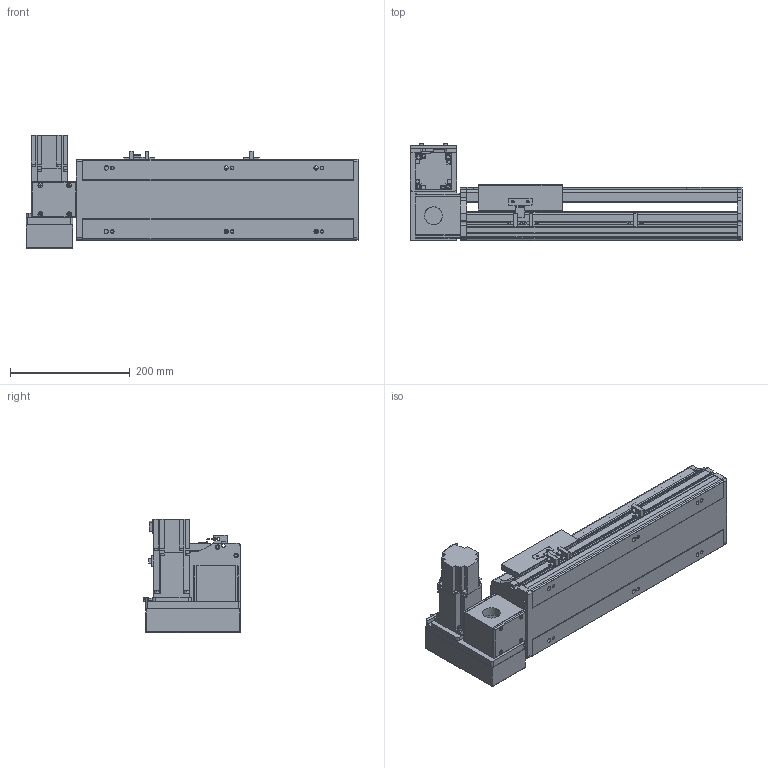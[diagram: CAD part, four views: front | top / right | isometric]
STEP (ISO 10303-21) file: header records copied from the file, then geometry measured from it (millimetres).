
FILE_DESCRIPTION( ( 'STEP AP214' ), '1' );
FILE_NAME( 'x:/temp/worker_6/temp/exporttempdir_5396_119_1QaUT/format_0/PBS140S-P40-S200-LU-T40-C1-N(0).stp', '2022-06-09T00:33:05', ( 'License CC BY-ND 4.0' ), ( 'CADENAS' ), ' ', 'PARTsolutions', ' ' );
FILE_SCHEMA( ( 'AUTOMOTIVE_DESIGN { 1 0 10303 214 1 1 1 1 }' ) );
Length unit declared in the file: millimetre
Products named in the file (7): PBS140S-P40-S200-LU-T40-C1-N(0); _PBS140S-S200()_body; _PBS140ST-LU_motors; _T40-p1; _PBS140S_sliser; _PBS140S_plant; _PBS140S_sensor
Assembly tree (8 placements, depth 2):
  PBS140S-P40-S200-LU-T40-C1-N(0)
    _PBS140S-S200()_body
    _PBS140ST-LU_motors
    _T40-p1
    _PBS140S_sliser
    _PBS140S_plant
    _PBS140S_sensor  x3
Bounding box: 554 x 162.5 x 189.7 mm (x, y, z)
Volume: 3396996.7 mm3; surface area: 622757.5 mm2
Topology: 8 solids, 8 shells, 1019 faces, 2711 edges, 1775 vertices
Faces by surface type: plane 672, cylinder 305, cone 32, sphere 8, torus 2
Full cylindrical faces by diameter (mm): 3.242 x4, 4 x2, 4.134 x4, 4.4 x8, 4.5 x2, 4.8 x4, 4.917 x14, 5.5 x7, 6 x2, 7 x8, 7.5 x8, 8 x12, 8.5 x4, 10.5 x6, 14 x1, 30 x2, 50 x2
Entity records: 37126 total; most frequent: CARTESIAN_POINT 5566, DIRECTION 4998, ORIENTED_EDGE 4762, EDGE_CURVE 2381, AXIS2_PLACEMENT_3D 1709, VERTEX_POINT 1633, LINE 1580, VECTOR 1580
